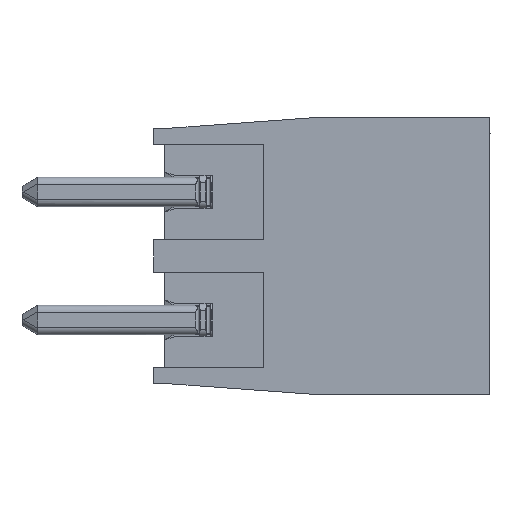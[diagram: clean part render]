
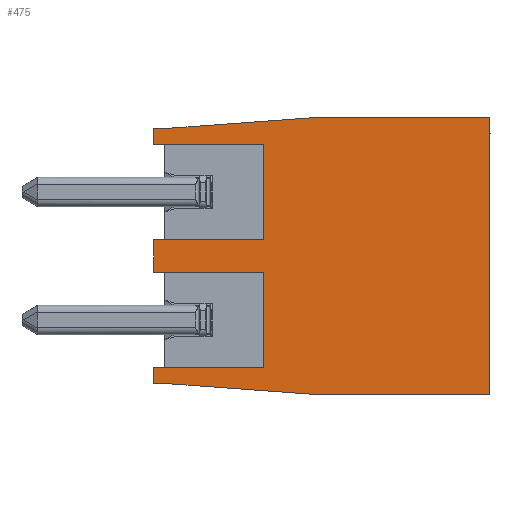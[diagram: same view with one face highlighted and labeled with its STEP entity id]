
A CAD part, left-side view. The second image highlights one B-rep face of the part: STEP entity #475.
In plain terms, the highlighted planar face has unit normal (-1, 0, 0).
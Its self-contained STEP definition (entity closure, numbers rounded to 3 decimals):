
#164 = VERTEX_POINT ( 'NONE', #2976 ) ;
#175 = EDGE_CURVE ( 'NONE', #164, #181, #2961, .T. ) ;
#181 = VERTEX_POINT ( 'NONE', #2952 ) ;
#219 = VERTEX_POINT ( 'NONE', #3034 ) ;
#284 = ORIENTED_EDGE ( 'NONE', *, *, #6582, .T. ) ;
#286 = ORIENTED_EDGE ( 'NONE', *, *, #5433, .T. ) ;
#287 = ORIENTED_EDGE ( 'NONE', *, *, #6572, .T. ) ;
#288 = VERTEX_POINT ( 'NONE', #3177 ) ;
#290 = ORIENTED_EDGE ( 'NONE', *, *, #6561, .T. ) ;
#291 = ORIENTED_EDGE ( 'NONE', *, *, #9290, .F. ) ;
#292 = ORIENTED_EDGE ( 'NONE', *, *, #357, .F. ) ;
#294 = EDGE_LOOP ( 'NONE', ( #292, #291, #295, #286, #287, #290, #284, #481, #474, #468, #471, #479, #480, #478, #484, #467 ) ) ;
#295 = ORIENTED_EDGE ( 'NONE', *, *, #5568, .T. ) ;
#357 = EDGE_CURVE ( 'NONE', #5177, #219, #3311, .T. ) ;
#446 = EDGE_CURVE ( 'NONE', #5420, #288, #3488, .T. ) ;
#455 = EDGE_CURVE ( 'NONE', #463, #6594, #3471, .T. ) ;
#463 = VERTEX_POINT ( 'NONE', #3515 ) ;
#467 = ORIENTED_EDGE ( 'NONE', *, *, #10641, .T. ) ;
#468 = ORIENTED_EDGE ( 'NONE', *, *, #482, .F. ) ;
#471 = ORIENTED_EDGE ( 'NONE', *, *, #175, .T. ) ;
#473 = EDGE_CURVE ( 'NONE', #463, #181, #3509, .T. ) ;
#474 = ORIENTED_EDGE ( 'NONE', *, *, #446, .T. ) ;
#475 = ADVANCED_FACE ( 'NONE', ( #3505 ), #3504, .T. ) ;
#478 = ORIENTED_EDGE ( 'NONE', *, *, #9792, .T. ) ;
#479 = ORIENTED_EDGE ( 'NONE', *, *, #473, .F. ) ;
#480 = ORIENTED_EDGE ( 'NONE', *, *, #455, .T. ) ;
#481 = ORIENTED_EDGE ( 'NONE', *, *, #5422, .F. ) ;
#482 = EDGE_CURVE ( 'NONE', #164, #288, #3498, .T. ) ;
#484 = ORIENTED_EDGE ( 'NONE', *, *, #8587, .T. ) ;
#2212 = VERTEX_POINT ( 'NONE', #7823 ) ;
#2952 = CARTESIAN_POINT ( 'NONE',  ( 0., -3.783, -3.35 ) ) ;
#2958 = DIRECTION ( 'NONE',  ( 0., 0., -1. ) ) ;
#2959 = VECTOR ( 'NONE', #2958, 1000. ) ;
#2960 = CARTESIAN_POINT ( 'NONE',  ( 0., -3.783, -3.8 ) ) ;
#2961 = LINE ( 'NONE', #2960, #2959 ) ;
#2976 = CARTESIAN_POINT ( 'NONE',  ( 0., -3.783, -0.75 ) ) ;
#3034 = CARTESIAN_POINT ( 'NONE',  ( 0., -0.783, -6.85 ) ) ;
#3177 = CARTESIAN_POINT ( 'NONE',  ( 0., -0.783, -0.75 ) ) ;
#3308 = DIRECTION ( 'NONE',  ( 0., 0., 1. ) ) ;
#3309 = VECTOR ( 'NONE', #3308, 1000. ) ;
#3310 = CARTESIAN_POINT ( 'NONE',  ( 0., -0.783, -7.075 ) ) ;
#3311 = LINE ( 'NONE', #3310, #3309 ) ;
#3468 = DIRECTION ( 'NONE',  ( 0., 0., -1. ) ) ;
#3469 = VECTOR ( 'NONE', #3468, 1000. ) ;
#3470 = CARTESIAN_POINT ( 'NONE',  ( 0., -0.783, -3.8 ) ) ;
#3471 = LINE ( 'NONE', #3470, #3469 ) ;
#3485 = DIRECTION ( 'NONE',  ( 0., 0., -1. ) ) ;
#3486 = VECTOR ( 'NONE', #3485, 1000. ) ;
#3487 = CARTESIAN_POINT ( 'NONE',  ( 0., -0.783, -3.8 ) ) ;
#3488 = LINE ( 'NONE', #3487, #3486 ) ;
#3495 = DIRECTION ( 'NONE',  ( 0., 1., 0. ) ) ;
#3496 = VECTOR ( 'NONE', #3495, 1000. ) ;
#3497 = CARTESIAN_POINT ( 'NONE',  ( 0., -2.283, -0.75 ) ) ;
#3498 = LINE ( 'NONE', #3497, #3496 ) ;
#3500 = DIRECTION ( 'NONE',  ( 0., 0., 1. ) ) ;
#3501 = DIRECTION ( 'NONE',  ( -1., 0., 0. ) ) ;
#3502 = CARTESIAN_POINT ( 'NONE',  ( 0., -9.983, -7.6 ) ) ;
#3503 = AXIS2_PLACEMENT_3D ( 'NONE', #3502, #3501, #3500 ) ;
#3504 = PLANE ( 'NONE',  #3503 ) ;
#3505 = FACE_OUTER_BOUND ( 'NONE', #294, .T. ) ;
#3506 = DIRECTION ( 'NONE',  ( 0., -1., 0. ) ) ;
#3507 = VECTOR ( 'NONE', #3506, 1000. ) ;
#3508 = CARTESIAN_POINT ( 'NONE',  ( 0., -2.283, -3.35 ) ) ;
#3509 = LINE ( 'NONE', #3508, #3507 ) ;
#3515 = CARTESIAN_POINT ( 'NONE',  ( 0., -0.783, -3.35 ) ) ;
#5177 = VERTEX_POINT ( 'NONE', #8779 ) ;
#5420 = VERTEX_POINT ( 'NONE', #8756 ) ;
#5422 = EDGE_CURVE ( 'NONE', #5420, #2212, #8807, .T. ) ;
#5433 = EDGE_CURVE ( 'NONE', #5512, #5446, #8837, .T. ) ;
#5446 = VERTEX_POINT ( 'NONE', #8855 ) ;
#5512 = VERTEX_POINT ( 'NONE', #8935 ) ;
#5568 = EDGE_CURVE ( 'NONE', #9292, #5512, #9053, .T. ) ;
#6561 = EDGE_CURVE ( 'NONE', #6574, #6589, #10702, .T. ) ;
#6572 = EDGE_CURVE ( 'NONE', #5446, #6574, #10688, .T. ) ;
#6574 = VERTEX_POINT ( 'NONE', #10684 ) ;
#6582 = EDGE_CURVE ( 'NONE', #6589, #2212, #10748, .T. ) ;
#6589 = VERTEX_POINT ( 'NONE', #10734 ) ;
#6594 = VERTEX_POINT ( 'NONE', #10729 ) ;
#7823 = CARTESIAN_POINT ( 'NONE',  ( 0., -1.283, -0.3 ) ) ;
#8554 = VERTEX_POINT ( 'NONE', #10832 ) ;
#8587 = EDGE_CURVE ( 'NONE', #9883, #8554, #10831, .T. ) ;
#8756 = CARTESIAN_POINT ( 'NONE',  ( 0., -0.783, -0.3 ) ) ;
#8779 = CARTESIAN_POINT ( 'NONE',  ( 0., -0.783, -7.3 ) ) ;
#8800 = DIRECTION ( 'NONE',  ( 0., -1., 0. ) ) ;
#8801 = VECTOR ( 'NONE', #8800, 1000. ) ;
#8802 = CARTESIAN_POINT ( 'NONE',  ( 0., -1.033, -0.3 ) ) ;
#8807 = LINE ( 'NONE', #8802, #8801 ) ;
#8834 = DIRECTION ( 'NONE',  ( 0., -1., 0. ) ) ;
#8835 = VECTOR ( 'NONE', #8834, 1000. ) ;
#8836 = CARTESIAN_POINT ( 'NONE',  ( 0., -5.383, -7.6 ) ) ;
#8837 = LINE ( 'NONE', #8836, #8835 ) ;
#8855 = CARTESIAN_POINT ( 'NONE',  ( 0., -9.983, -7.6 ) ) ;
#8935 = CARTESIAN_POINT ( 'NONE',  ( 0., -5.383, -7.6 ) ) ;
#9050 = DIRECTION ( 'NONE',  ( 0., -0.997, -0.073 ) ) ;
#9051 = VECTOR ( 'NONE', #9050, 1000. ) ;
#9052 = CARTESIAN_POINT ( 'NONE',  ( 0., -1.283, -7.3 ) ) ;
#9053 = LINE ( 'NONE', #9052, #9051 ) ;
#9290 = EDGE_CURVE ( 'NONE', #9292, #5177, #10817, .T. ) ;
#9292 = VERTEX_POINT ( 'NONE', #10813 ) ;
#9792 = EDGE_CURVE ( 'NONE', #6594, #9883, #10861, .T. ) ;
#9883 = VERTEX_POINT ( 'NONE', #10857 ) ;
#10641 = EDGE_CURVE ( 'NONE', #8554, #219, #10854, .T. ) ;
#10684 = CARTESIAN_POINT ( 'NONE',  ( 0., -9.983, 0. ) ) ;
#10685 = DIRECTION ( 'NONE',  ( 0., 0., 1. ) ) ;
#10686 = VECTOR ( 'NONE', #10685, 1000. ) ;
#10687 = CARTESIAN_POINT ( 'NONE',  ( 0., -9.983, -3.8 ) ) ;
#10688 = LINE ( 'NONE', #10687, #10686 ) ;
#10699 = DIRECTION ( 'NONE',  ( 0., 1., 0. ) ) ;
#10700 = VECTOR ( 'NONE', #10699, 1000. ) ;
#10701 = CARTESIAN_POINT ( 'NONE',  ( 0., -5.383, 0. ) ) ;
#10702 = LINE ( 'NONE', #10701, #10700 ) ;
#10729 = CARTESIAN_POINT ( 'NONE',  ( 0., -0.783, -4.25 ) ) ;
#10734 = CARTESIAN_POINT ( 'NONE',  ( 0., -5.383, 0. ) ) ;
#10745 = DIRECTION ( 'NONE',  ( 0., 0.997, -0.073 ) ) ;
#10746 = VECTOR ( 'NONE', #10745, 1000. ) ;
#10747 = CARTESIAN_POINT ( 'NONE',  ( 0., -5.383, 0. ) ) ;
#10748 = LINE ( 'NONE', #10747, #10746 ) ;
#10813 = CARTESIAN_POINT ( 'NONE',  ( 0., -1.283, -7.3 ) ) ;
#10814 = DIRECTION ( 'NONE',  ( 0., 1., 0. ) ) ;
#10815 = VECTOR ( 'NONE', #10814, 1000. ) ;
#10816 = CARTESIAN_POINT ( 'NONE',  ( 0., -1.033, -7.3 ) ) ;
#10817 = LINE ( 'NONE', #10816, #10815 ) ;
#10828 = DIRECTION ( 'NONE',  ( 0., 0., -1. ) ) ;
#10829 = VECTOR ( 'NONE', #10828, 1000. ) ;
#10830 = CARTESIAN_POINT ( 'NONE',  ( 0., -3.783, -3.8 ) ) ;
#10831 = LINE ( 'NONE', #10830, #10829 ) ;
#10832 = CARTESIAN_POINT ( 'NONE',  ( 0., -3.783, -6.85 ) ) ;
#10847 = DIRECTION ( 'NONE',  ( 0., 1., 0. ) ) ;
#10848 = VECTOR ( 'NONE', #10847, 1000. ) ;
#10849 = CARTESIAN_POINT ( 'NONE',  ( 0., -5.383, -6.85 ) ) ;
#10854 = LINE ( 'NONE', #10849, #10848 ) ;
#10857 = CARTESIAN_POINT ( 'NONE',  ( 0., -3.783, -4.25 ) ) ;
#10858 = DIRECTION ( 'NONE',  ( 0., -1., 0. ) ) ;
#10859 = VECTOR ( 'NONE', #10858, 1000. ) ;
#10860 = CARTESIAN_POINT ( 'NONE',  ( 0., -5.383, -4.25 ) ) ;
#10861 = LINE ( 'NONE', #10860, #10859 ) ;
